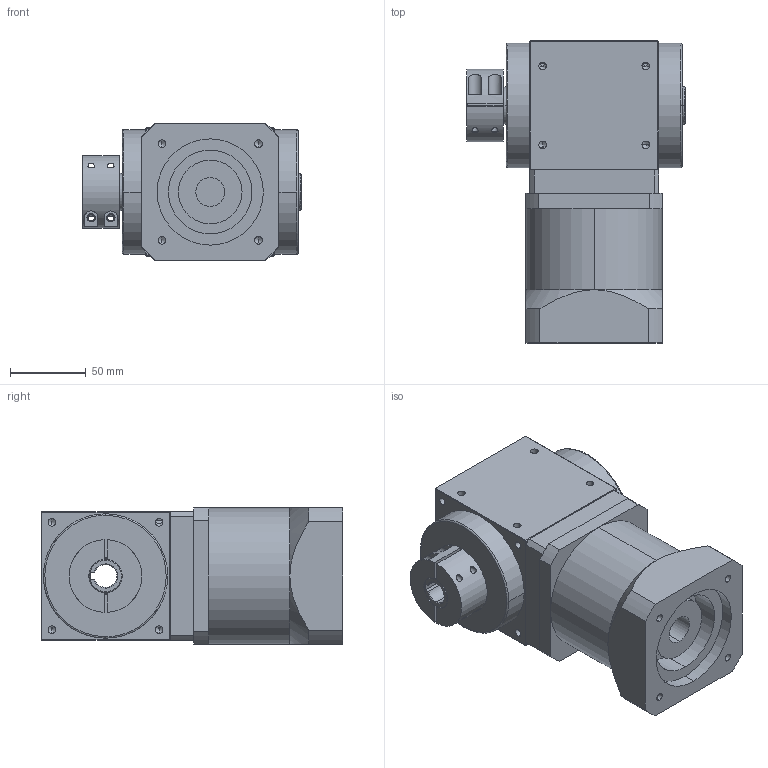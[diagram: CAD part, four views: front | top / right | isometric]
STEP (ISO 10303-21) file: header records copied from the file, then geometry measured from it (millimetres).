
FILE_DESCRIPTION (( 'STEP AP214' ), '1' );
FILE_NAME ('PAW085A-L1-C-K(3-10) 19-70-90-M6.STEP', '2021-04-24T07:59:53', ( 'Microsoft' ), ( 'Microsoft China' ), 'SwSTEP 2.0', 'SolidWorks 2016', '' );
FILE_SCHEMA (( 'AUTOMOTIVE_DESIGN' ));
Length unit declared in the file: millimetre
Products named in the file (3): 085標杶_1; PAW085A-L2-2C-K--19-70-90-M6_1; PAW085A-L1-C-K(3-10) 19-70-90-M6
Assembly tree (2 placements, depth 2):
  PAW085A-L1-C-K(3-10) 19-70-90-M6
    PAW085A-L2-2C-K--19-70-90-M6_1
    085標杶_1
Bounding box: 144 x 199 x 90 mm (x, y, z)
Volume: 1515395.6 mm3; surface area: 139198.8 mm2
Topology: 5 solids, 5 shells, 276 faces, 663 edges, 393 vertices
Faces by surface type: cylinder 113, plane 87, cone 72, bspline 4
Entity records: 11486 total; most frequent: CARTESIAN_POINT 1978, DIRECTION 1385, ORIENTED_EDGE 1258, EDGE_CURVE 629, AXIS2_PLACEMENT_3D 544, VERTEX_POINT 393, EDGE_LOOP 332, LINE 297
